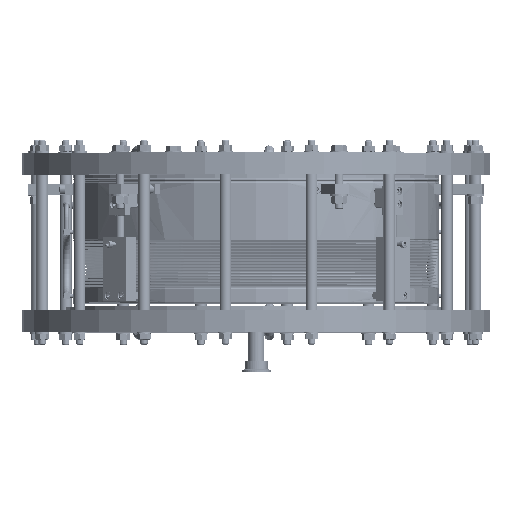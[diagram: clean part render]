
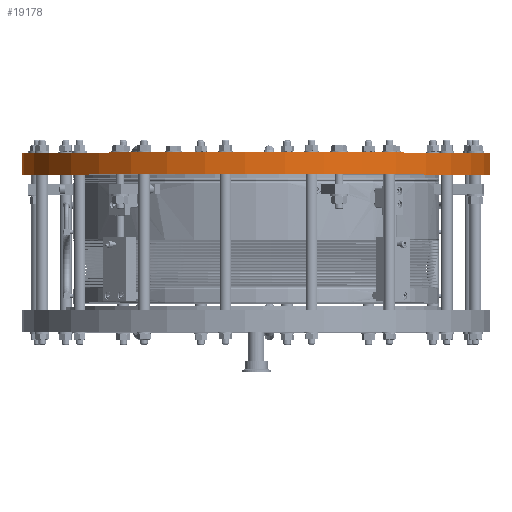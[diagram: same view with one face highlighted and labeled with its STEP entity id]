
A CAD part, top view. The second image highlights one B-rep face of the part: STEP entity #19178.
In plain terms, the highlighted cylindrical face has radius 320 mm (diameter 640 mm), a partial arc.
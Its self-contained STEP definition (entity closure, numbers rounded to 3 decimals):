
#1718=B_SPLINE_CURVE_WITH_KNOTS('',3,(#35313,#35314,#35315,#35316,#35317,
#35318,#35319,#35320,#35321,#35322,#35323,#35324,#35325,#35326,#35327,#35328,
#35329,#35330,#35331,#35332,#35333,#35334,#35335),.UNSPECIFIED.,.F.,.F.,
(4,2,2,2,2,3,2,2,2,2,4),(-1.631,-1.507,-1.13,
-0.754,-0.377,0.,0.377,0.754,
1.13,1.507,1.631),.UNSPECIFIED.);
#1720=B_SPLINE_CURVE_WITH_KNOTS('',3,(#35423,#35424,#35425,#35426,#35427,
#35428,#35429,#35430,#35431,#35432,#35433,#35434,#35435,#35436,#35437,#35438,
#35439,#35440,#35441,#35442,#35443,#35444),.UNSPECIFIED.,.F.,.F.,(4,2,2,
2,2,2,2,2,2,2,4),(4.397,4.522,4.898,5.275,
5.652,6.029,6.405,6.782,7.159,
7.536,7.66),.UNSPECIFIED.);
#1911=CYLINDRICAL_SURFACE('',#22136,320.);
#2840=FACE_OUTER_BOUND('',#4048,.T.);
#4048=EDGE_LOOP('',(#16858,#16859,#16860,#16861));
#7605=CIRCLE('',#22119,320.);
#7622=CIRCLE('',#22137,320.);
#9338=VERTEX_POINT('',#35307);
#9340=VERTEX_POINT('',#35311);
#9349=VERTEX_POINT('',#35381);
#9368=VERTEX_POINT('',#35421);
#11889=EDGE_CURVE('',#9338,#9340,#1718,.T.);
#11901=EDGE_CURVE('',#9338,#9349,#7605,.T.);
#11921=EDGE_CURVE('',#9368,#9340,#7622,.T.);
#11922=EDGE_CURVE('',#9368,#9349,#1720,.T.);
#16858=ORIENTED_EDGE('',*,*,#11889,.T.);
#16859=ORIENTED_EDGE('',*,*,#11921,.F.);
#16860=ORIENTED_EDGE('',*,*,#11922,.T.);
#16861=ORIENTED_EDGE('',*,*,#11901,.F.);
#19178=ADVANCED_FACE('',(#2840),#1911,.T.);
#22119=AXIS2_PLACEMENT_3D('',#35382,#27938,#27939);
#22136=AXIS2_PLACEMENT_3D('',#35420,#27975,#27976);
#22137=AXIS2_PLACEMENT_3D('',#35422,#27977,#27978);
#27938=DIRECTION('center_axis',(0.,0.,1.));
#27939=DIRECTION('ref_axis',(-1.,0.,0.));
#27975=DIRECTION('center_axis',(0.,0.,1.));
#27976=DIRECTION('ref_axis',(0.423,-0.906,0.));
#27977=DIRECTION('center_axis',(0.,0.,-1.));
#27978=DIRECTION('ref_axis',(-1.,0.,0.));
#35307=CARTESIAN_POINT('',(-215.65,236.421,30.));
#35311=CARTESIAN_POINT('',(-215.65,236.421,0.));
#35313=CARTESIAN_POINT('Ctrl Pts',(-215.65,236.421,30.));
#35314=CARTESIAN_POINT('Ctrl Pts',(-215.884,236.208,29.721));
#35315=CARTESIAN_POINT('Ctrl Pts',(-216.109,236.002,29.434));
#35316=CARTESIAN_POINT('Ctrl Pts',(-216.979,235.204,28.254));
#35317=CARTESIAN_POINT('Ctrl Pts',(-217.591,234.637,27.252));
#35318=CARTESIAN_POINT('Ctrl Pts',(-218.667,233.635,25.067));
#35319=CARTESIAN_POINT('Ctrl Pts',(-219.131,233.199,23.886));
#35320=CARTESIAN_POINT('Ctrl Pts',(-219.875,232.498,21.423));
#35321=CARTESIAN_POINT('Ctrl Pts',(-220.156,232.232,20.138));
#35322=CARTESIAN_POINT('Ctrl Pts',(-220.524,231.882,17.555));
#35323=CARTESIAN_POINT('Ctrl Pts',(-220.611,231.799,16.256));
#35324=CARTESIAN_POINT('Ctrl Pts',(-220.611,231.799,15.));
#35325=CARTESIAN_POINT('Ctrl Pts',(-220.611,231.799,13.744));
#35326=CARTESIAN_POINT('Ctrl Pts',(-220.524,231.882,12.445));
#35327=CARTESIAN_POINT('Ctrl Pts',(-220.156,232.232,9.862));
#35328=CARTESIAN_POINT('Ctrl Pts',(-219.875,232.498,8.577));
#35329=CARTESIAN_POINT('Ctrl Pts',(-219.131,233.199,6.114));
#35330=CARTESIAN_POINT('Ctrl Pts',(-218.667,233.635,4.933));
#35331=CARTESIAN_POINT('Ctrl Pts',(-217.591,234.637,2.748));
#35332=CARTESIAN_POINT('Ctrl Pts',(-216.979,235.204,1.746));
#35333=CARTESIAN_POINT('Ctrl Pts',(-216.109,236.002,0.566));
#35334=CARTESIAN_POINT('Ctrl Pts',(-215.884,236.208,0.279));
#35335=CARTESIAN_POINT('Ctrl Pts',(-215.65,236.421,0.));
#35381=CARTESIAN_POINT('',(-42.492,317.166,30.));
#35382=CARTESIAN_POINT('Origin',(0.,0.,30.));
#35420=CARTESIAN_POINT('Origin',(0.,0.,0.));
#35421=CARTESIAN_POINT('',(-42.492,317.166,0.));
#35422=CARTESIAN_POINT('Origin',(0.,0.,0.));
#35423=CARTESIAN_POINT('Ctrl Pts',(-42.492,317.166,0.));
#35424=CARTESIAN_POINT('Ctrl Pts',(-42.178,317.208,0.279));
#35425=CARTESIAN_POINT('Ctrl Pts',(-41.876,317.248,0.566));
#35426=CARTESIAN_POINT('Ctrl Pts',(-40.705,317.402,1.746));
#35427=CARTESIAN_POINT('Ctrl Pts',(-39.877,317.506,2.748));
#35428=CARTESIAN_POINT('Ctrl Pts',(-38.418,317.686,4.933));
#35429=CARTESIAN_POINT('Ctrl Pts',(-37.786,317.762,6.114));
#35430=CARTESIAN_POINT('Ctrl Pts',(-36.771,317.881,8.577));
#35431=CARTESIAN_POINT('Ctrl Pts',(-36.386,317.925,9.862));
#35432=CARTESIAN_POINT('Ctrl Pts',(-35.882,317.982,12.445));
#35433=CARTESIAN_POINT('Ctrl Pts',(-35.763,317.995,13.744));
#35434=CARTESIAN_POINT('Ctrl Pts',(-35.763,317.995,16.256));
#35435=CARTESIAN_POINT('Ctrl Pts',(-35.882,317.982,17.555));
#35436=CARTESIAN_POINT('Ctrl Pts',(-36.386,317.925,20.138));
#35437=CARTESIAN_POINT('Ctrl Pts',(-36.771,317.881,21.423));
#35438=CARTESIAN_POINT('Ctrl Pts',(-37.786,317.762,23.886));
#35439=CARTESIAN_POINT('Ctrl Pts',(-38.418,317.686,25.067));
#35440=CARTESIAN_POINT('Ctrl Pts',(-39.877,317.506,27.252));
#35441=CARTESIAN_POINT('Ctrl Pts',(-40.705,317.402,28.254));
#35442=CARTESIAN_POINT('Ctrl Pts',(-41.876,317.248,29.434));
#35443=CARTESIAN_POINT('Ctrl Pts',(-42.178,317.208,29.721));
#35444=CARTESIAN_POINT('Ctrl Pts',(-42.492,317.166,30.));
